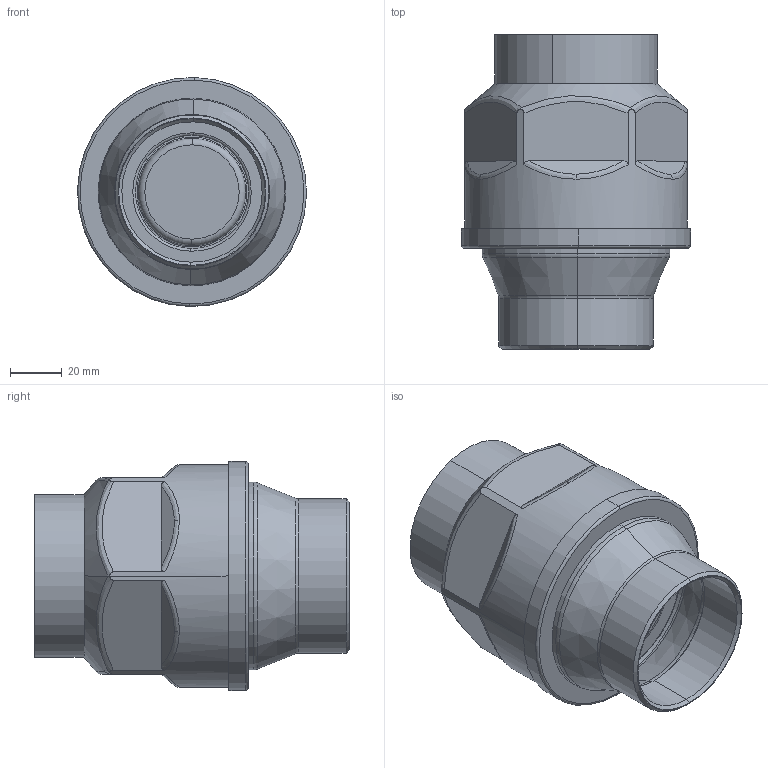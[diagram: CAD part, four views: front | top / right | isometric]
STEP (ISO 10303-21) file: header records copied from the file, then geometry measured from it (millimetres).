
FILE_DESCRIPTION (( 'STEP AP203' ), '1' );
FILE_NAME ('06F0701 cod. 900030 MF.STEP', '2020-05-20T11:56:56', ( '' ), ( '' ), 'SwSTEP 2.0', 'SolidWorks 2016', '' );
FILE_SCHEMA (( 'CONFIG_CONTROL_DESIGN' ));
Length unit declared in the file: millimetre
Products named in the file (10): 06I0608 X G2; 06F0701 cod. 900030 MF; 06F0709 G2; 06N9705 X G2; 06I9610 X G2; 06I0607 X G2; OR6187 X G2; 06I9611 X G2; 06F97003 X G2; 05N9702 X G2
Assembly tree (9 placements, depth 2):
  06F0701 cod. 900030 MF
    06I9610 X G2
    06I0608 X G2
    06I0607 X G2
    06N9705 X G2
    06I9611 X G2
    05N9702 X G2
    06F97003 X G2
    OR6187 X G2
    06F0709 G2
Bounding box: 88.58 x 121.5 x 88.58 mm (x, y, z)
Volume: 93105.2 mm3; surface area: 100580.5 mm2
Topology: 9 solids, 9 shells, 283 faces, 703 edges, 446 vertices
Faces by surface type: cylinder 99, plane 74, torus 54, bspline 38, cone 18
Entity records: 19795 total; most frequent: CARTESIAN_POINT 12212, ORIENTED_EDGE 1406, DIRECTION 1379, EDGE_CURVE 703, AXIS2_PLACEMENT_3D 583, VERTEX_POINT 446, CIRCLE 326, EDGE_LOOP 305
